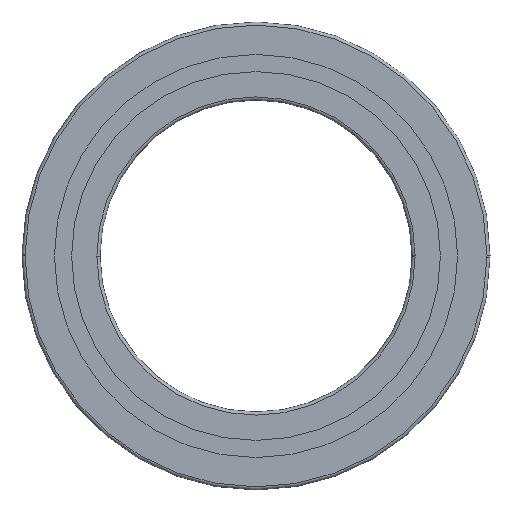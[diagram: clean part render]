
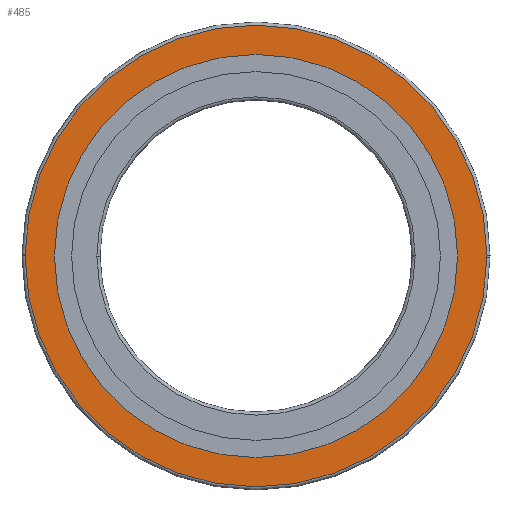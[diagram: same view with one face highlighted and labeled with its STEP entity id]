
A CAD part, front view. The second image highlights one B-rep face of the part: STEP entity #485.
In plain terms, the highlighted planar face has unit normal (0, -1, 0).
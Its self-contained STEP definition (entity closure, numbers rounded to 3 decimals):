
#295=EDGE_CURVE('',#491,#433,#701,.T.);
#339=EDGE_CURVE('',#407,#491,#752,.T.);
#407=VERTEX_POINT('',#823);
#409=EDGE_CURVE('',#561,#455,#825,.T.);
#411=EDGE_CURVE('',#455,#561,#827,.T.);
#433=VERTEX_POINT('',#855);
#439=VERTEX_POINT('',#861);
#455=VERTEX_POINT('',#881);
#485=ADVANCED_FACE('',(#916,#917),#918,.F.);
#491=VERTEX_POINT('',#925);
#561=VERTEX_POINT('',#1002);
#601=EDGE_CURVE('',#433,#439,#1050,.T.);
#607=EDGE_CURVE('',#439,#407,#1056,.T.);
#701=CIRCLE('',#1164,74.0);
#752=CIRCLE('',#1226,74.0);
#823=CARTESIAN_POINT('',(-73.999,0.0,0.459));
#825=CIRCLE('',#1326,64.6);
#827=CIRCLE('',#1329,64.6);
#855=CARTESIAN_POINT('',(73.999,0.0,-0.459));
#861=CARTESIAN_POINT('',(74.0,0.0,0.0));
#881=CARTESIAN_POINT('',(64.6,0.0,0.0));
#916=FACE_OUTER_BOUND('',#1432,.T.);
#917=FACE_BOUND('',#1433,.T.);
#918=PLANE('',#1434);
#925=CARTESIAN_POINT('',(-74.0,0.0,0.0));
#1002=CARTESIAN_POINT('',(-64.6,0.0,0.0));
#1050=CIRCLE('',#1590,74.0);
#1056=CIRCLE('',#1599,74.0);
#1164=AXIS2_PLACEMENT_3D('',#1682,#1683,#1684);
#1226=AXIS2_PLACEMENT_3D('',#1763,#1764,#1765);
#1326=AXIS2_PLACEMENT_3D('',#1837,#1838,#1839);
#1329=AXIS2_PLACEMENT_3D('',#1840,#1841,#1842);
#1432=EDGE_LOOP('',(#1993,#1994,#1995,#1996));
#1433=EDGE_LOOP('',(#1997,#1998));
#1434=AXIS2_PLACEMENT_3D('',#1999,#2000,#2001);
#1590=AXIS2_PLACEMENT_3D('',#2168,#2169,#2170);
#1599=AXIS2_PLACEMENT_3D('',#2177,#2178,#2179);
#1682=CARTESIAN_POINT('',(0.0,0.0,0.0));
#1683=DIRECTION('',(0.0,-1.0,0.0));
#1684=DIRECTION('',(-1.0,0.0,0.0));
#1763=CARTESIAN_POINT('',(0.0,0.0,0.0));
#1764=DIRECTION('',(0.0,-1.0,0.0));
#1765=DIRECTION('',(1.0,0.0,0.0));
#1837=CARTESIAN_POINT('',(0.0,0.0,0.0));
#1838=DIRECTION('',(0.0,-1.0,0.0));
#1839=DIRECTION('',(-1.0,0.0,0.0));
#1840=CARTESIAN_POINT('',(0.0,0.0,0.0));
#1841=DIRECTION('',(0.0,-1.0,0.0));
#1842=DIRECTION('',(1.0,0.0,0.0));
#1993=ORIENTED_EDGE('',*,*,#295,.T.);
#1994=ORIENTED_EDGE('',*,*,#601,.T.);
#1995=ORIENTED_EDGE('',*,*,#607,.T.);
#1996=ORIENTED_EDGE('',*,*,#339,.T.);
#1997=ORIENTED_EDGE('',*,*,#409,.F.);
#1998=ORIENTED_EDGE('',*,*,#411,.F.);
#1999=CARTESIAN_POINT('',(0.0,0.0,0.0));
#2000=DIRECTION('',(0.0,1.0,0.0));
#2001=DIRECTION('',(1.0,0.0,-0.0));
#2168=CARTESIAN_POINT('',(0.0,0.0,0.0));
#2169=DIRECTION('',(0.0,-1.0,0.0));
#2170=DIRECTION('',(-1.0,0.0,0.0));
#2177=CARTESIAN_POINT('',(0.0,0.0,0.0));
#2178=DIRECTION('',(0.0,-1.0,0.0));
#2179=DIRECTION('',(1.0,0.0,0.0));
